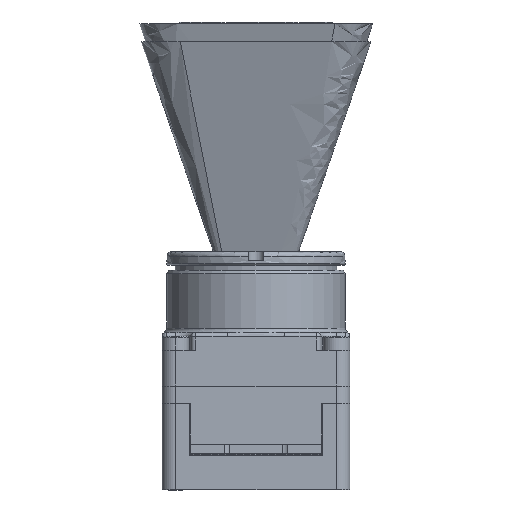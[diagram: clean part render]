
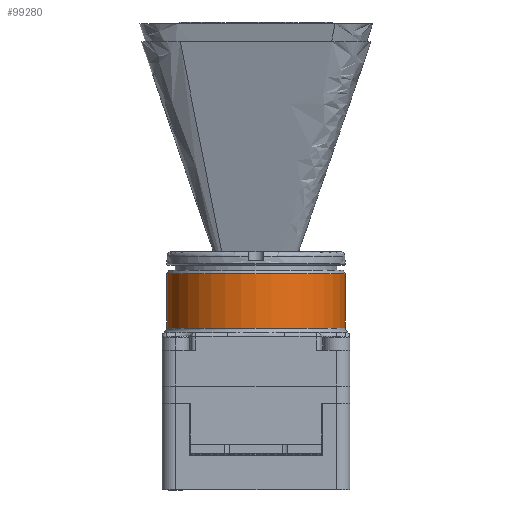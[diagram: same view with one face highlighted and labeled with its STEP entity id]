
A CAD part, front view. The second image highlights one B-rep face of the part: STEP entity #99280.
In plain terms, the highlighted cylindrical face has radius 10 mm (diameter 20 mm), a partial arc.
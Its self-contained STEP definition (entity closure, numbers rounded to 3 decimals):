
#2303 = CIRCLE ( 'NONE', #149242, 10. ) ;
#2922 = LINE ( 'NONE', #175327, #174329 ) ;
#13330 = DIRECTION ( 'NONE',  ( 0., 0., -1. ) ) ;
#18278 = DIRECTION ( 'NONE',  ( 0., 0., 1. ) ) ;
#31437 = FACE_OUTER_BOUND ( 'NONE', #82964, .T. ) ;
#33176 = LINE ( 'NONE', #150698, #69165 ) ;
#37494 = DIRECTION ( 'NONE',  ( 0., 0., -1. ) ) ;
#37613 = EDGE_CURVE ( 'NONE', #67424, #94096, #2922, .T. ) ;
#50416 = CYLINDRICAL_SURFACE ( 'NONE', #85425, 10. ) ;
#51043 = EDGE_CURVE ( 'NONE', #113581, #139648, #33176, .T. ) ;
#51689 = DIRECTION ( 'NONE',  ( -1., 0., 0. ) ) ;
#58836 = ORIENTED_EDGE ( 'NONE', *, *, #51043, .F. ) ;
#62896 = CARTESIAN_POINT ( 'NONE',  ( -10., 0., 3.5 ) ) ;
#67424 = VERTEX_POINT ( 'NONE', #82809 ) ;
#69165 = VECTOR ( 'NONE', #164299, 1000. ) ;
#69835 = AXIS2_PLACEMENT_3D ( 'NONE', #80717, #175393, #94356 ) ;
#70680 = EDGE_CURVE ( 'NONE', #113581, #67424, #118477, .T. ) ;
#80717 = CARTESIAN_POINT ( 'NONE',  ( 0., 0., 9.565 ) ) ;
#82809 = CARTESIAN_POINT ( 'NONE',  ( -10., 0., 9.565 ) ) ;
#82964 = EDGE_LOOP ( 'NONE', ( #58836, #126944, #110021, #164007 ) ) ;
#85425 = AXIS2_PLACEMENT_3D ( 'NONE', #172986, #37494, #51689 ) ;
#94096 = VERTEX_POINT ( 'NONE', #62896 ) ;
#94356 = DIRECTION ( 'NONE',  ( -1., 0., 0. ) ) ;
#94854 = EDGE_CURVE ( 'NONE', #94096, #139648, #2303, .T. ) ;
#99264 = CARTESIAN_POINT ( 'NONE',  ( 0., 0., 3.5 ) ) ;
#99280 = ADVANCED_FACE ( 'NONE', ( #31437 ), #50416, .T. ) ;
#110021 = ORIENTED_EDGE ( 'NONE', *, *, #37613, .T. ) ;
#112868 = DIRECTION ( 'NONE',  ( -1., 0., 0. ) ) ;
#113581 = VERTEX_POINT ( 'NONE', #137429 ) ;
#118477 = CIRCLE ( 'NONE', #69835, 10. ) ;
#124239 = CARTESIAN_POINT ( 'NONE',  ( 10., 0., 3.5 ) ) ;
#126944 = ORIENTED_EDGE ( 'NONE', *, *, #70680, .T. ) ;
#137429 = CARTESIAN_POINT ( 'NONE',  ( 10., 0., 9.565 ) ) ;
#139648 = VERTEX_POINT ( 'NONE', #124239 ) ;
#149242 = AXIS2_PLACEMENT_3D ( 'NONE', #99264, #18278, #112868 ) ;
#150698 = CARTESIAN_POINT ( 'NONE',  ( 10., 0., 9.998 ) ) ;
#164007 = ORIENTED_EDGE ( 'NONE', *, *, #94854, .T. ) ;
#164299 = DIRECTION ( 'NONE',  ( 0., 0., -1. ) ) ;
#172986 = CARTESIAN_POINT ( 'NONE',  ( 0., 0., 9.998 ) ) ;
#174329 = VECTOR ( 'NONE', #13330, 1000. ) ;
#175327 = CARTESIAN_POINT ( 'NONE',  ( -10., 0., 9.998 ) ) ;
#175393 = DIRECTION ( 'NONE',  ( 0., 0., -1. ) ) ;
